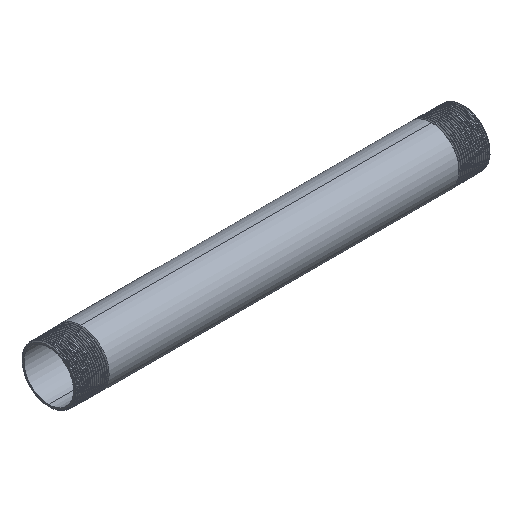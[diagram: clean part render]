
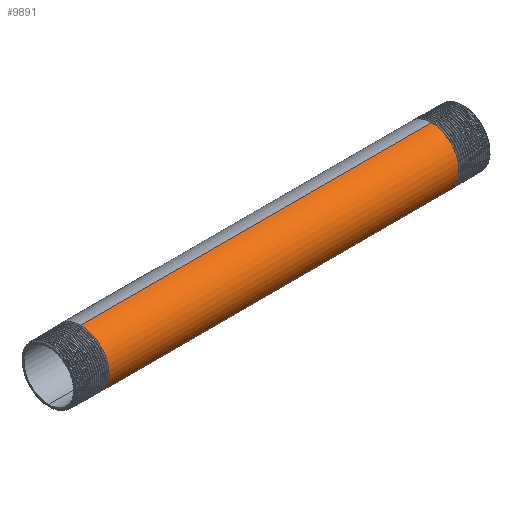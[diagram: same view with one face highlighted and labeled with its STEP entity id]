
A CAD part, isometric view. The second image highlights one B-rep face of the part: STEP entity #9891.
In plain terms, the highlighted cylindrical face has radius 13.45 mm (diameter 26.9 mm), a partial arc.
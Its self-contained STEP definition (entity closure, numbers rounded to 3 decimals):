
#369 = EDGE_CURVE ( 'NONE', #3832, #1519, #845, .T. ) ;
#428 = CARTESIAN_POINT ( 'NONE',  ( -84.438, -13.45, 5.571 ) ) ;
#495 = LINE ( 'NONE', #11843, #1930 ) ;
#619 = EDGE_CURVE ( 'NONE', #9359, #1519, #495, .T. ) ;
#674 = CARTESIAN_POINT ( 'NONE',  ( 84.375, -13.45, 0. ) ) ;
#845 =( BOUNDED_CURVE ( )  B_SPLINE_CURVE ( 2, ( #4415, #8534, #6704, #2657, #4546, #428, #9544, #6508, #6637 ),
 .UNSPECIFIED., .F., .F. ) 
 B_SPLINE_CURVE_WITH_KNOTS ( ( 3, 2, 2, 2, 3 ),
 ( 0., 0.006, 0.013, 0.019, 0.025 ),
 .UNSPECIFIED. ) 
 CURVE ( )  GEOMETRIC_REPRESENTATION_ITEM ( )  RATIONAL_B_SPLINE_CURVE ( ( 1., 0.924, 1., 0.924, 1., 0.924, 1., 0.924, 1. ) ) 
 REPRESENTATION_ITEM ( '' )  );
#954 = EDGE_CURVE ( 'NONE', #4380, #3832, #1731, .T. ) ;
#1519 = VERTEX_POINT ( 'NONE', #2164 ) ;
#1731 = LINE ( 'NONE', #4629, #3649 ) ;
#1930 = VECTOR ( 'NONE', #6707, 1000. ) ;
#2164 = CARTESIAN_POINT ( 'NONE',  ( -84.625, 0., 13.45 ) ) ;
#2657 = CARTESIAN_POINT ( 'NONE',  ( -84.313, -13.45, -5.571 ) ) ;
#2704 = CARTESIAN_POINT ( 'NONE',  ( 84.125, 0., -13.45 ) ) ;
#2846 = CARTESIAN_POINT ( 'NONE',  ( 84.563, -5.571, 13.45 ) ) ;
#2976 = CARTESIAN_POINT ( 'NONE',  ( 84.625, 0., 13.45 ) ) ;
#3114 = DIRECTION ( 'NONE',  ( 0., 0., 1. ) ) ;
#3649 = VECTOR ( 'NONE', #8688, 1000. ) ;
#3832 = VERTEX_POINT ( 'NONE', #11197 ) ;
#4380 = VERTEX_POINT ( 'NONE', #10575 ) ;
#4415 = CARTESIAN_POINT ( 'NONE',  ( -84.125, 0., -13.45 ) ) ;
#4546 = CARTESIAN_POINT ( 'NONE',  ( -84.375, -13.45, 0. ) ) ;
#4629 = CARTESIAN_POINT ( 'NONE',  ( -149.494, 0., -13.45 ) ) ;
#5097 = EDGE_CURVE ( 'NONE', #4380, #9359, #13266, .T. ) ;
#5799 = CARTESIAN_POINT ( 'NONE',  ( 84.25, -9.511, -9.511 ) ) ;
#6348 = DIRECTION ( 'NONE',  ( -1., 0., 0. ) ) ;
#6508 = CARTESIAN_POINT ( 'NONE',  ( -84.563, -5.571, 13.45 ) ) ;
#6637 = CARTESIAN_POINT ( 'NONE',  ( -84.625, 0., 13.45 ) ) ;
#6704 = CARTESIAN_POINT ( 'NONE',  ( -84.25, -9.511, -9.511 ) ) ;
#6707 = DIRECTION ( 'NONE',  ( -1., 0., 0. ) ) ;
#6821 = CARTESIAN_POINT ( 'NONE',  ( 84.188, -5.571, -13.45 ) ) ;
#7024 = CARTESIAN_POINT ( 'NONE',  ( 84.5, -9.511, 9.511 ) ) ;
#7073 = AXIS2_PLACEMENT_3D ( 'NONE', #10541, #6348, #3114 ) ;
#8224 = ORIENTED_EDGE ( 'NONE', *, *, #954, .F. ) ;
#8375 = FACE_OUTER_BOUND ( 'NONE', #11808, .T. ) ;
#8506 = CYLINDRICAL_SURFACE ( 'NONE', #7073, 13.45 ) ;
#8534 = CARTESIAN_POINT ( 'NONE',  ( -84.188, -5.571, -13.45 ) ) ;
#8688 = DIRECTION ( 'NONE',  ( -1., 0., 0. ) ) ;
#8911 = CARTESIAN_POINT ( 'NONE',  ( 84.438, -13.45, 5.571 ) ) ;
#9291 = ORIENTED_EDGE ( 'NONE', *, *, #5097, .T. ) ;
#9359 = VERTEX_POINT ( 'NONE', #12013 ) ;
#9544 = CARTESIAN_POINT ( 'NONE',  ( -84.5, -9.511, 9.511 ) ) ;
#9891 = ADVANCED_FACE ( 'NONE', ( #8375 ), #8506, .T. ) ;
#9928 = CARTESIAN_POINT ( 'NONE',  ( 84.313, -13.45, -5.571 ) ) ;
#10332 = ORIENTED_EDGE ( 'NONE', *, *, #619, .T. ) ;
#10541 = CARTESIAN_POINT ( 'NONE',  ( -149.494, 0., 0. ) ) ;
#10575 = CARTESIAN_POINT ( 'NONE',  ( 84.125, 0., -13.45 ) ) ;
#11197 = CARTESIAN_POINT ( 'NONE',  ( -84.125, 0., -13.45 ) ) ;
#11808 = EDGE_LOOP ( 'NONE', ( #8224, #9291, #10332, #12740 ) ) ;
#11843 = CARTESIAN_POINT ( 'NONE',  ( -149.494, 0., 13.45 ) ) ;
#12013 = CARTESIAN_POINT ( 'NONE',  ( 84.625, 0., 13.45 ) ) ;
#12740 = ORIENTED_EDGE ( 'NONE', *, *, #369, .F. ) ;
#13266 =( BOUNDED_CURVE ( )  B_SPLINE_CURVE ( 2, ( #2704, #6821, #5799, #9928, #674, #8911, #7024, #2846, #2976 ),
 .UNSPECIFIED., .F., .F. ) 
 B_SPLINE_CURVE_WITH_KNOTS ( ( 3, 2, 2, 2, 3 ),
 ( 0., 0.006, 0.013, 0.019, 0.025 ),
 .UNSPECIFIED. ) 
 CURVE ( )  GEOMETRIC_REPRESENTATION_ITEM ( )  RATIONAL_B_SPLINE_CURVE ( ( 1., 0.924, 1., 0.924, 1., 0.924, 1., 0.924, 1. ) ) 
 REPRESENTATION_ITEM ( '' )  );
